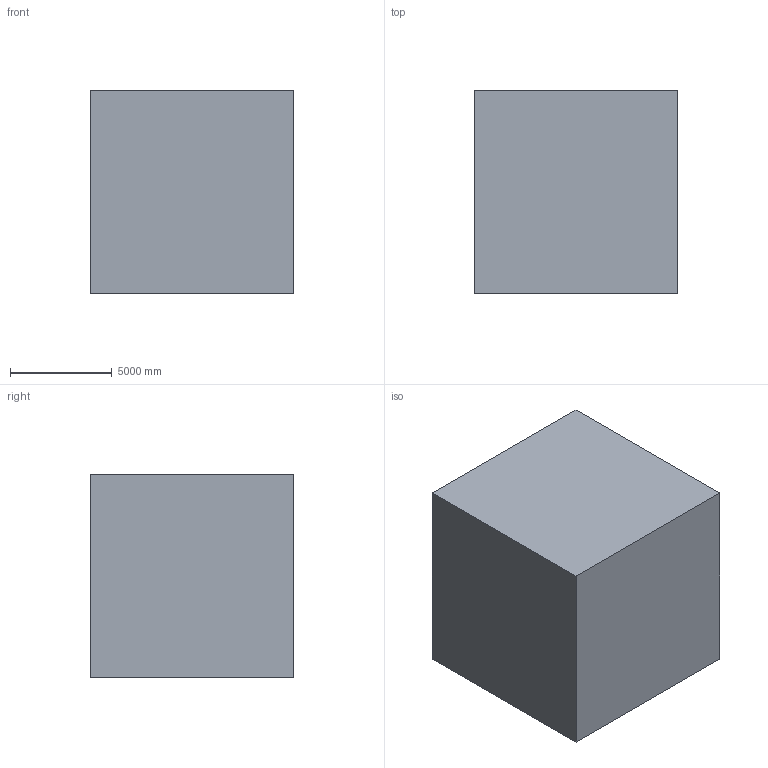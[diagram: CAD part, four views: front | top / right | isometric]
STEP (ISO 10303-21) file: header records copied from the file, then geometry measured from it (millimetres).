
FILE_DESCRIPTION (( 'STEP AP203' ), '1' );
FILE_NAME ('47.STEP', '2022-07-28T13:29:15', ( 'user' ), ( '' ), 'SwSTEP 2.0', 'SolidWorks 2021', '' );
FILE_SCHEMA (( 'CONFIG_CONTROL_DESIGN' ));
Length unit declared in the file: centimetre
Products named in the file (1): 47
Bounding box: 10000 x 10000 x 10000 mm (x, y, z)
Volume: 800484322872.3 mm3; surface area: 730867604.9 mm2
Topology: 1 solids, 1 shells, 15 faces, 36 edges, 24 vertices
Faces by surface type: plane 14, cylinder 1
Entity records: 509 total; most frequent: CARTESIAN_POINT 76, ORIENTED_EDGE 72, DIRECTION 70, EDGE_CURVE 36, LINE 34, VECTOR 34, VERTEX_POINT 24, AXIS2_PLACEMENT_3D 18
